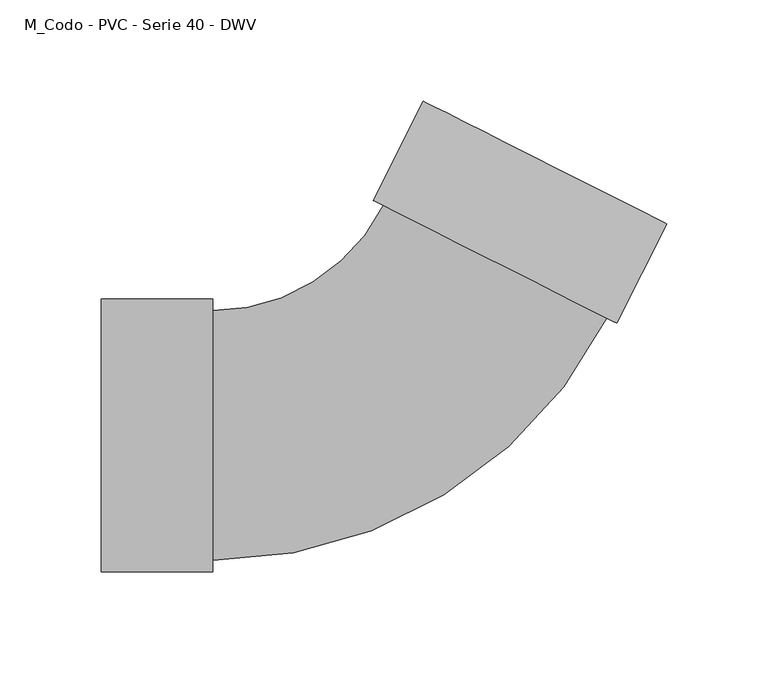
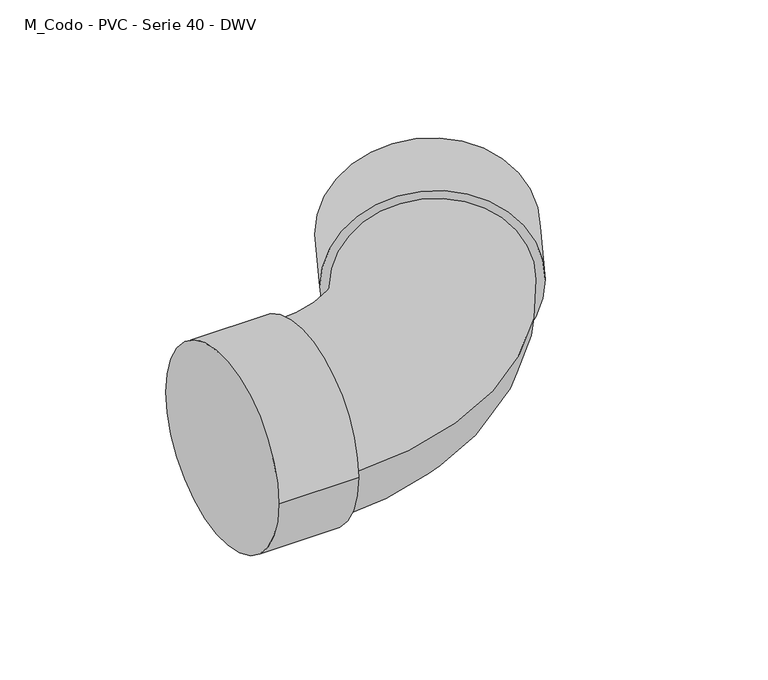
"""IFC4 building model written with IfcOpenShell, lengths in millimetres: pipe fitting geometry, M_Codo - PVC - Serie 40 - DWV : Estándar."""

from ifc_helpers import new_model, si_unit, point, frame, origin, place, context, project, spatial, circle_curve, ellipse_curve, trimmed, source, transform, mapped, element, save
from ifc_brep_helpers import plane_surface, cylinder_surface, revolved_surface, advanced_brep


def m_codo_pvc_serie_40_dwv_58af3277(model_context):
    return source(origin(), model_context, "Body", "AdvancedBrep", [
        advanced_brep(
        [(-151.2140625, -67.3871094, 0.0), (-151.2140625, 67.3871094, 0.0), (-96.2140625, -67.3871094, 0.0), (-96.2140625, 67.3871094, 0.0), (-96.2140625, -61.7640625, 0.0), (-96.2140625, 61.7640625, 0.0), (-11.8211617, 113.7198548, 0.0), (98.4736263, 58.0938049, 0.0), (103.4942866, 55.5616862, 0.0), (-16.841822, 116.2519736, 0.0), (128.2613811, 104.669639, 0.0), (7.9252724, 165.3599264, 0.0)],
        [
            (0, 1, circle_curve(frame((-151.2140625, 0.0, 0.0), z_axis=(-1.0, 0.0, 0.0), x_axis=(0.0, 1.0, 0.0)), 67.3871094)),
            (1, 0, circle_curve(frame((-151.2140625, 0.0, 0.0), z_axis=(-1.0, 0.0, 0.0), x_axis=(0.0, 1.0, 0.0)), 67.3871094)),
            (2, 3, circle_curve(frame((-96.2140625, 0.0, 0.0), z_axis=(1.0, 0.0, 0.0), x_axis=(0.0, 1.0, 0.0)), 67.3871094)),
            (3, 2, circle_curve(frame((-96.2140625, 0.0, 0.0), z_axis=(1.0, 0.0, 0.0), x_axis=(0.0, 1.0, 0.0)), 67.3871094)),
            (4, 5, circle_curve(frame((-96.2140625, 0.0, 0.0), z_axis=(-1.0, 0.0, 0.0), x_axis=(0.0, 1.0, 0.0)), 61.7640625)),
            (5, 4, circle_curve(frame((-96.2140625, 0.0, 0.0), z_axis=(-1.0, 0.0, 0.0), x_axis=(0.0, 1.0, 0.0)), 61.7640625)),
            (0, 2),
            (3, 1),
            (6, 5, circle_curve(frame((-96.2140625, 156.2825524, 0.0), z_axis=(0.0, 0.0, -1.0), x_axis=(0.0, -1.0, 0.0)), 94.5184899)),
            (4, 7, circle_curve(frame((-96.2140625, 156.2825524, 0.0), z_axis=(0.0, 0.0, 1.0), x_axis=(0.0, -1.0, 0.0)), 218.0466149)),
            (7, 6, circle_curve(frame((43.3262323, 85.9068299, 0.0), z_axis=(-0.4503108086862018, -0.892871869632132, 0.0), x_axis=(-0.892871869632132, 0.4503108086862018, 0.0)), 61.7640625)),
            (6, 7, circle_curve(frame((43.3262323, 85.9068299, 0.0), z_axis=(-0.4503108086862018, -0.892871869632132, 0.0), x_axis=(-0.892871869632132, 0.4503108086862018, 0.0)), 61.7640625)),
            (8, 9, circle_curve(frame((43.3262323, 85.9068299, 0.0), z_axis=(-0.45031080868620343, -0.8928718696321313, 0.0), x_axis=(-0.8928718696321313, 0.45031080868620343, 0.0)), 67.3871094)),
            (9, 8, circle_curve(frame((43.3262323, 85.9068299, 0.0), z_axis=(-0.45031080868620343, -0.8928718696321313, 0.0), x_axis=(-0.8928718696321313, 0.45031080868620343, 0.0)), 67.3871094)),
            (10, 11, circle_curve(frame((68.0933268, 135.0147827, 0.0), z_axis=(0.45031080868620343, 0.8928718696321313, 0.0), x_axis=(-0.8928718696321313, 0.45031080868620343, 0.0)), 67.3871094)),
            (11, 10, circle_curve(frame((68.0933268, 135.0147827, 0.0), z_axis=(0.45031080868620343, 0.8928718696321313, 0.0), x_axis=(-0.8928718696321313, 0.45031080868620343, 0.0)), 67.3871094)),
            (8, 10),
            (11, 9),
        ],
        [
            plane_surface(frame((-151.2140625, 0.0, 0.0), z_axis=(-1.0, 0.0, 0.0), x_axis=(0.0, 0.0, 1.0))),
            plane_surface(frame((-96.2140625, 0.0, 0.0), z_axis=(1.0, 0.0, 0.0), x_axis=(0.0, 0.0, 1.0))),
            cylinder_surface(frame((-151.2140625, 0.0, 0.0), z_axis=(-1.0, 0.0, 0.0), x_axis=(0.0, 1.0, 0.0)), 67.3871094),
            revolved_surface(trimmed(ellipse_curve(frame((-96.2140625, 0.0, 0.0), z_axis=(-1.0, 0.0, 0.0), x_axis=(0.0, 1.0, 0.0)), 61.7640625, 61.7640625), [point((-96.2140625, -61.7640625, 0.0))], [point((-96.2140625, 61.7640625, 0.0))], True, "CARTESIAN"), (-96.2140625, 156.2825524, 0.0), (0.0, 0.0, 1.0)),
            revolved_surface(trimmed(ellipse_curve(frame((-96.2140625, 0.0, 0.0), z_axis=(-1.0, 0.0, 0.0), x_axis=(0.0, 1.0, 0.0)), 61.7640625, 61.7640625), [point((-96.2140625, 61.7640625, 0.0))], [point((-96.2140625, -61.7640625, 0.0))], True, "CARTESIAN"), (-96.2140625, 156.2825524, 0.0), (0.0, 0.0, 1.0)),
            plane_surface(frame((43.3262323, 85.9068299, 0.0), z_axis=(-0.45031080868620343, -0.8928718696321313, 0.0), x_axis=(0.0, 0.0, 1.0))),
            plane_surface(frame((68.0933268, 135.0147827, 0.0), z_axis=(0.45031080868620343, 0.8928718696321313, 0.0), x_axis=(0.0, 0.0, 1.0))),
            cylinder_surface(frame((43.3262323, 85.9068299, 0.0), z_axis=(-0.45031080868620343, -0.8928718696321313, 0.0), x_axis=(-0.8928718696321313, 0.45031080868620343, 0.0)), 67.3871094),
        ],
        [
            (0, [[1, 2]]),
            (1, [[3, 4], [5, 6]]),
            (2, [[-1, 7, -4, 8]]),
            (2, [[-2, -8, -3, -7]]),
            (3, [[9, -5, 10, 11]]),
            (4, [[-9, 12, -10, -6]]),
            (5, [[13, 14], [-11, -12]]),
            (6, [[15, 16]]),
            (7, [[-13, 17, -16, 18]]),
            (7, [[-14, -18, -15, -17]]),
        ],
    ),
    ])


if __name__ == "__main__":
    model = new_model("IFC4")
    model_context = context("Model", 3, world=origin())
    ifc_project = project(units=[si_unit("LENGTHUNIT", "METRE", prefix="MILLI")], contexts=[model_context])
    site = spatial("IfcSite", under=ifc_project)
    building = spatial("IfcBuilding", under=site)
    placement = place(None, origin())
    m_codo_pvc_serie_40_dwv_shape = m_codo_pvc_serie_40_dwv_58af3277(model_context)
    element("IfcPipeFitting", 1, ObjectType="M_Codo - PVC - Serie 40 - DWV : Estándar", at=placement, inside=building, context=model_context, shape_type="MappedRepresentation", body=[
        mapped(m_codo_pvc_serie_40_dwv_shape, transform((0.0, 0.0, 0.0), x_axis=(1.0, 0.0, 0.0), y_axis=(0.0, 1.0, 0.0), z_axis=(0.0, 0.0, 1.0))),
    ])
    save(model, "model.ifc")
